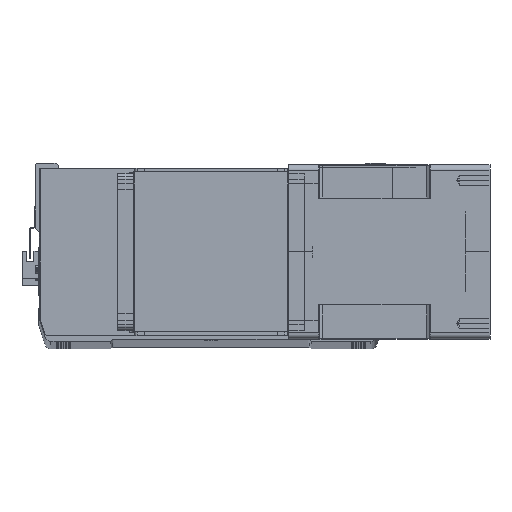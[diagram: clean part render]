
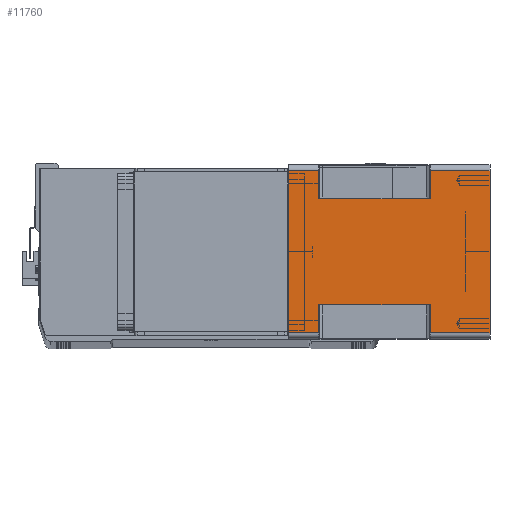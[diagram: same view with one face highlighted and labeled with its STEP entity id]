
A CAD part, top view. The second image highlights one B-rep face of the part: STEP entity #11760.
In plain terms, the highlighted planar face has unit normal (0, 0, 1) as drawn and (1, 0, 0) by its records, which use the part's own axes.
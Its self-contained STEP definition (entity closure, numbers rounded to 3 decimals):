
#140 = VERTEX_POINT ( 'NONE', #25590 ) ;
#1127 = VECTOR ( 'NONE', #19225, 1000. ) ;
#1417 = CARTESIAN_POINT ( 'NONE',  ( 71., 43., -115.5 ) ) ;
#1767 = VECTOR ( 'NONE', #22609, 1000. ) ;
#1952 = CARTESIAN_POINT ( 'NONE',  ( 71., 43., -164. ) ) ;
#2233 = LINE ( 'NONE', #29668, #35730 ) ;
#2367 = VERTEX_POINT ( 'NONE', #8026 ) ;
#2386 = DIRECTION ( 'NONE',  ( 0., 0., 1. ) ) ;
#2528 = CARTESIAN_POINT ( 'NONE',  ( 71., -66., -164. ) ) ;
#2776 = LINE ( 'NONE', #21939, #16715 ) ;
#3036 = VECTOR ( 'NONE', #2386, 1000. ) ;
#3100 = CARTESIAN_POINT ( 'NONE',  ( 71., -43., -24.5 ) ) ;
#4049 = CARTESIAN_POINT ( 'NONE',  ( 71., 66., -115.5 ) ) ;
#4277 = EDGE_CURVE ( 'NONE', #19485, #32744, #21500, .T. ) ;
#4475 = EDGE_CURVE ( 'NONE', #24521, #14529, #2776, .T. ) ;
#4850 = VERTEX_POINT ( 'NONE', #28070 ) ;
#5072 = CARTESIAN_POINT ( 'NONE',  ( 71., -66., 0. ) ) ;
#5281 = LINE ( 'NONE', #24141, #8335 ) ;
#5468 = EDGE_CURVE ( 'NONE', #19485, #30147, #28352, .T. ) ;
#5904 = LINE ( 'NONE', #24621, #1127 ) ;
#6217 = CARTESIAN_POINT ( 'NONE',  ( 71., -66., -115.5 ) ) ;
#6720 = VECTOR ( 'NONE', #31921, 1000. ) ;
#6763 = ORIENTED_EDGE ( 'NONE', *, *, #35529, .T. ) ;
#6941 = CARTESIAN_POINT ( 'NONE',  ( 71., -43., -24.5 ) ) ;
#7936 = EDGE_CURVE ( 'NONE', #21686, #17123, #5904, .T. ) ;
#8026 = CARTESIAN_POINT ( 'NONE',  ( 71., 43., -115.5 ) ) ;
#8137 = ORIENTED_EDGE ( 'NONE', *, *, #7936, .F. ) ;
#8335 = VECTOR ( 'NONE', #20825, 1000. ) ;
#8671 = EDGE_CURVE ( 'NONE', #21686, #14529, #26079, .T. ) ;
#9326 = AXIS2_PLACEMENT_3D ( 'NONE', #2528, #22921, #14526 ) ;
#9908 = VERTEX_POINT ( 'NONE', #4049 ) ;
#10472 = FACE_OUTER_BOUND ( 'NONE', #29318, .T. ) ;
#11097 = EDGE_CURVE ( 'NONE', #28501, #2367, #11813, .T. ) ;
#11757 = CARTESIAN_POINT ( 'NONE',  ( 71., -66., -115.5 ) ) ;
#11760 = ADVANCED_FACE ( 'NONE', ( #10472 ), #13372, .T. ) ;
#11813 = LINE ( 'NONE', #1952, #27090 ) ;
#12721 = ORIENTED_EDGE ( 'NONE', *, *, #11097, .F. ) ;
#13160 = ORIENTED_EDGE ( 'NONE', *, *, #24364, .T. ) ;
#13372 = PLANE ( 'NONE',  #9326 ) ;
#14049 = CARTESIAN_POINT ( 'NONE',  ( 71., -66., 0. ) ) ;
#14203 = LINE ( 'NONE', #11757, #27268 ) ;
#14453 = DIRECTION ( 'NONE',  ( 0., -1., 0. ) ) ;
#14526 = DIRECTION ( 'NONE',  ( 0., 1., 0. ) ) ;
#14529 = VERTEX_POINT ( 'NONE', #6941 ) ;
#14894 = EDGE_CURVE ( 'NONE', #24521, #32744, #14203, .T. ) ;
#16102 = CARTESIAN_POINT ( 'NONE',  ( 71., -66., -24.5 ) ) ;
#16493 = CARTESIAN_POINT ( 'NONE',  ( 71., 43., -24.5 ) ) ;
#16715 = VECTOR ( 'NONE', #24792, 1000. ) ;
#17123 = VERTEX_POINT ( 'NONE', #14049 ) ;
#17283 = ORIENTED_EDGE ( 'NONE', *, *, #4277, .F. ) ;
#17906 = EDGE_CURVE ( 'NONE', #28501, #4850, #2233, .T. ) ;
#18407 = LINE ( 'NONE', #5072, #32782 ) ;
#19225 = DIRECTION ( 'NONE',  ( 0., 0., 1. ) ) ;
#19485 = VERTEX_POINT ( 'NONE', #23894 ) ;
#19923 = VECTOR ( 'NONE', #33717, 1000. ) ;
#20239 = EDGE_CURVE ( 'NONE', #17123, #140, #18407, .T. ) ;
#20825 = DIRECTION ( 'NONE',  ( 0., 0., 1. ) ) ;
#20862 = ORIENTED_EDGE ( 'NONE', *, *, #4475, .F. ) ;
#21471 = DIRECTION ( 'NONE',  ( 0., 1., 0. ) ) ;
#21500 = LINE ( 'NONE', #23562, #6720 ) ;
#21686 = VERTEX_POINT ( 'NONE', #16102 ) ;
#21765 = ORIENTED_EDGE ( 'NONE', *, *, #5468, .T. ) ;
#21939 = CARTESIAN_POINT ( 'NONE',  ( 71., -43., -164. ) ) ;
#22609 = DIRECTION ( 'NONE',  ( 0., 1., 0. ) ) ;
#22921 = DIRECTION ( 'NONE',  ( 1., 0., 0. ) ) ;
#23562 = CARTESIAN_POINT ( 'NONE',  ( 71., -66., -164. ) ) ;
#23736 = ORIENTED_EDGE ( 'NONE', *, *, #20239, .F. ) ;
#23894 = CARTESIAN_POINT ( 'NONE',  ( 71., -66., -164. ) ) ;
#24122 = DIRECTION ( 'NONE',  ( 0., 0., -1. ) ) ;
#24141 = CARTESIAN_POINT ( 'NONE',  ( 71., 66., -164. ) ) ;
#24202 = CARTESIAN_POINT ( 'NONE',  ( 71., 66., -164. ) ) ;
#24316 = ORIENTED_EDGE ( 'NONE', *, *, #14894, .T. ) ;
#24364 = EDGE_CURVE ( 'NONE', #30147, #9908, #5281, .T. ) ;
#24521 = VERTEX_POINT ( 'NONE', #32624 ) ;
#24621 = CARTESIAN_POINT ( 'NONE',  ( 71., -66., -164. ) ) ;
#24792 = DIRECTION ( 'NONE',  ( 0., 0., 1. ) ) ;
#25590 = CARTESIAN_POINT ( 'NONE',  ( 71., 66., 0. ) ) ;
#25672 = CARTESIAN_POINT ( 'NONE',  ( 71., -66., -164. ) ) ;
#26079 = LINE ( 'NONE', #3100, #19923 ) ;
#26561 = DIRECTION ( 'NONE',  ( 0., 1., 0. ) ) ;
#27090 = VECTOR ( 'NONE', #24122, 1000. ) ;
#27168 = LINE ( 'NONE', #1417, #35395 ) ;
#27268 = VECTOR ( 'NONE', #14453, 1000. ) ;
#27436 = LINE ( 'NONE', #24202, #3036 ) ;
#27770 = ORIENTED_EDGE ( 'NONE', *, *, #17906, .T. ) ;
#28070 = CARTESIAN_POINT ( 'NONE',  ( 71., 66., -24.5 ) ) ;
#28352 = LINE ( 'NONE', #25672, #1767 ) ;
#28501 = VERTEX_POINT ( 'NONE', #16493 ) ;
#29318 = EDGE_LOOP ( 'NONE', ( #20862, #24316, #17283, #21765, #13160, #6763, #12721, #27770, #30401, #23736, #8137, #34322 ) ) ;
#29668 = CARTESIAN_POINT ( 'NONE',  ( 71., -66., -24.5 ) ) ;
#30147 = VERTEX_POINT ( 'NONE', #30573 ) ;
#30401 = ORIENTED_EDGE ( 'NONE', *, *, #31036, .T. ) ;
#30573 = CARTESIAN_POINT ( 'NONE',  ( 71., 66., -164. ) ) ;
#31036 = EDGE_CURVE ( 'NONE', #4850, #140, #27436, .T. ) ;
#31820 = DIRECTION ( 'NONE',  ( 0., -1., 0. ) ) ;
#31921 = DIRECTION ( 'NONE',  ( 0., 0., 1. ) ) ;
#32624 = CARTESIAN_POINT ( 'NONE',  ( 71., -43., -115.5 ) ) ;
#32744 = VERTEX_POINT ( 'NONE', #6217 ) ;
#32782 = VECTOR ( 'NONE', #21471, 1000. ) ;
#33717 = DIRECTION ( 'NONE',  ( 0., 1., 0. ) ) ;
#34322 = ORIENTED_EDGE ( 'NONE', *, *, #8671, .T. ) ;
#35395 = VECTOR ( 'NONE', #31820, 1000. ) ;
#35529 = EDGE_CURVE ( 'NONE', #9908, #2367, #27168, .T. ) ;
#35730 = VECTOR ( 'NONE', #26561, 1000. ) ;
